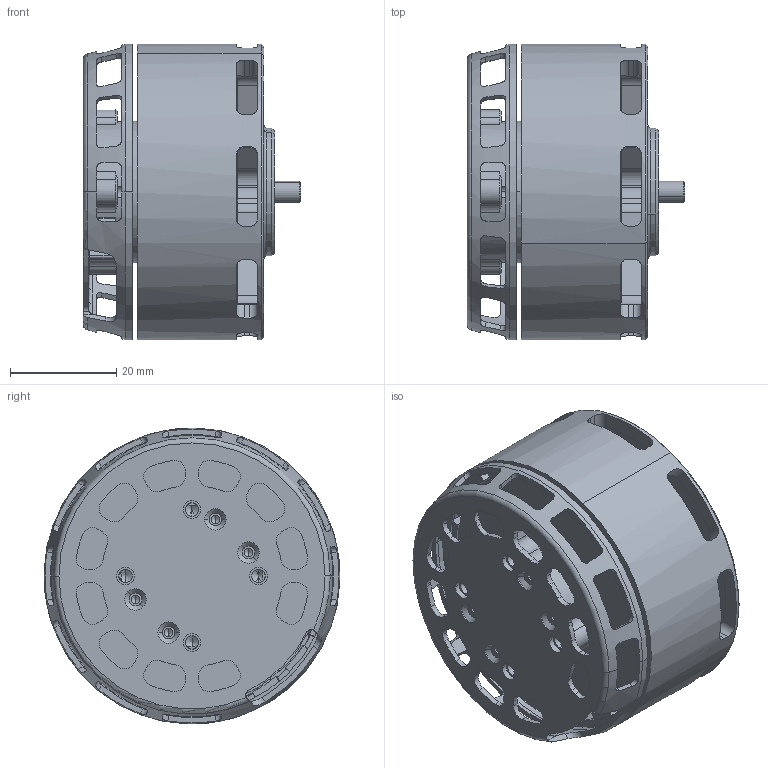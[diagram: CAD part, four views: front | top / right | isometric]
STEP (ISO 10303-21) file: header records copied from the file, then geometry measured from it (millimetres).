
FILE_DESCRIPTION (( 'STEP AP214' ), '1' );
FILE_NAME ('VL5015萇赽隅蔑.STEP', '2026-02-26T07:26:32', ( '' ), ( '' ), 'SwSTEP 2.0', 'SolidWorks 2021', '' );
FILE_SCHEMA (( 'AUTOMOTIVE_DESIGN' ));
Length unit declared in the file: millimetre
Products named in the file (1): VL5015萇赽隅蔑
Bounding box: 40.85 x 55.6 x 55.6 mm (x, y, z)
Volume: 44115.2 mm3; surface area: 32662.2 mm2
Topology: 1 solids, 8 shells, 1515 faces, 4520 edges, 2854 vertices
Faces by surface type: cylinder 695, plane 440, torus 166, cone 105, sphere 104, bspline 5
Entity records: 71928 total; most frequent: CARTESIAN_POINT 15458, ORIENTED_EDGE 8692, DIRECTION 8307, EDGE_CURVE 4346, AXIS2_PLACEMENT_3D 3353, VERTEX_POINT 2802, CIRCLE 1842, EDGE_LOOP 1638
